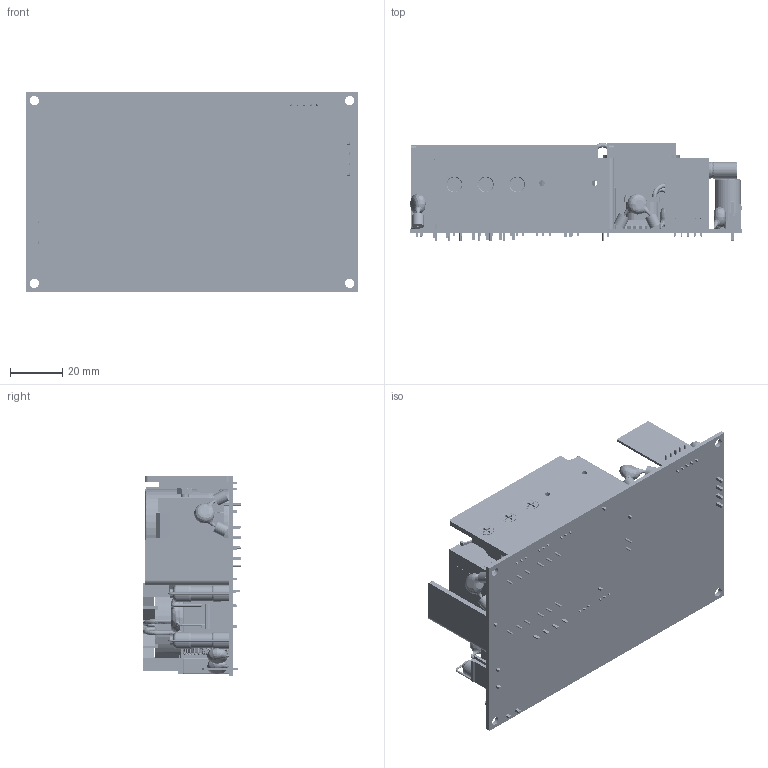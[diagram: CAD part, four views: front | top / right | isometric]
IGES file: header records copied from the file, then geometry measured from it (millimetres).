
Start section: SolidWorks IGES file using analytic representation for surfaces
Global section: file name: C:\Users\ksmith\Desktop\ECH450\ECH450PS36_56\ECH450PS36_56.IGS; native system: SolidWorks 2018; preprocessor: SolidWorks 2018; author: ksmith; date: 200407.095200; units: inch
Bounding box: 127 x 37.6 x 76.2 mm (x, y, z)
Surface area: 93939.5 mm2 (no closed solid volume)
Topology: 0 solids, 0 shells, 3279 faces, 25225 edges, 25177 vertices
Faces by surface type: bspline 2804, revolution 475
